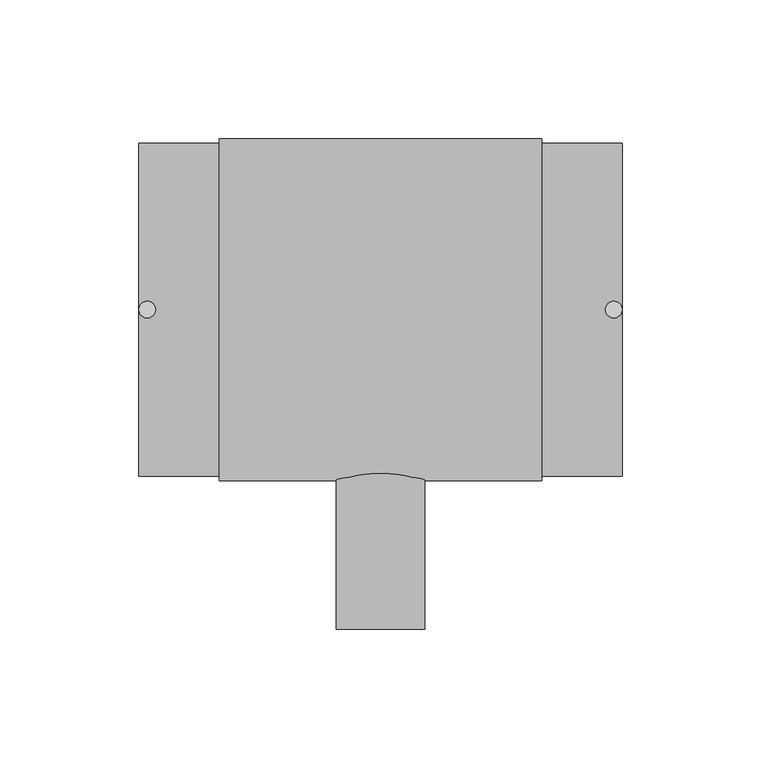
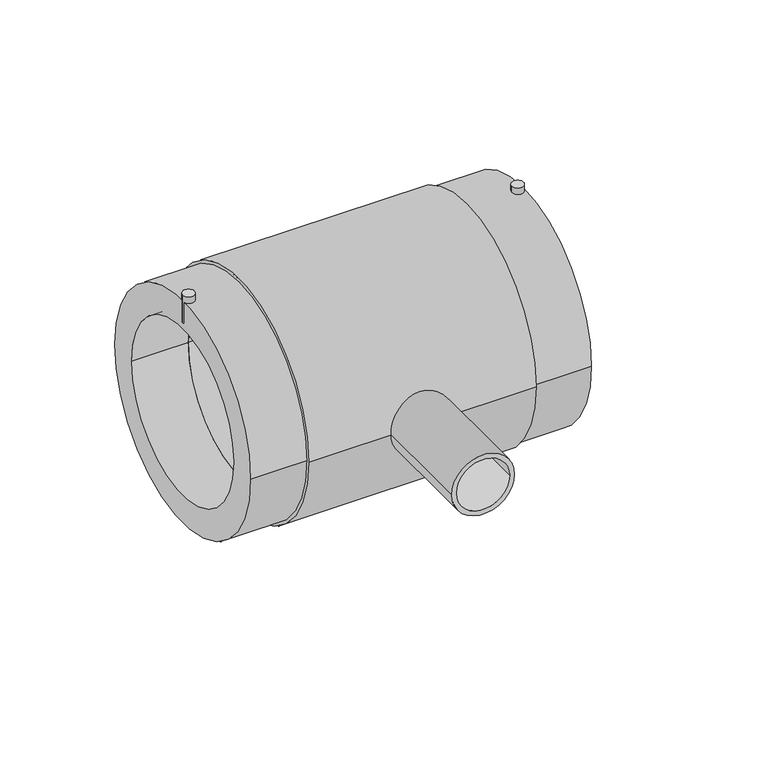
"""IFC4 building model written with IfcOpenShell, lengths in millimetres: pipe fitting geometry, EGB_VASEN_ PPR_Te electrosoldable WXRD300_Te reducida electrosoldable WXRD310 : Te electrosoldable."""

import ifcopenshell
import ifcopenshell.guid

model = None  # the IFC model being written
_history = None  # IfcOwnerHistory: only IFC2X3 demands one
_inside = {}  # id of a spatial element -> (the spatial element, [elements in it])
_under = {}  # id of a project, library or spatial element -> (it, [spatial elements below it])
_declared = {}  # id of a project -> (the project, [libraries it declares])
_typed = {}  # id of a type object -> (the type object, [elements of that type])
_made_of = {}  # id of a material, layer set ... -> (it, [elements and type objects made of it])


def new_model(schema):
    """Start an empty IFC model of exactly this schema.

    Asked for "IFC4X3", IfcOpenShell would pick the latest addendum, in which some entities
    have other attributes; the version numbers below select the first issue.
    IFC2X3 requires an IfcOwnerHistory on every rooted entity: one is made here for all.
    """
    global model, _history
    if schema == "IFC4X3":
        model = ifcopenshell.file(schema_version=(4, 3, 0, 0))
    else:
        model = ifcopenshell.file(schema=schema)
    _inside.clear()
    _under.clear()
    _declared.clear()
    _typed.clear()
    _made_of.clear()
    _history = None
    if model.schema == "IFC2X3":
        org = make("IfcOrganization", Name="unknown")
        user = make(
            "IfcPersonAndOrganization",
            ThePerson=make("IfcPerson", FamilyName="unknown"),
            TheOrganization=org,
        )
        app = make(
            "IfcApplication",
            ApplicationDeveloper=org,
            Version="unknown",
            ApplicationFullName="unknown",
            ApplicationIdentifier="unknown",
        )
        _history = make(
            "IfcOwnerHistory",
            OwningUser=user,
            OwningApplication=app,
            ChangeAction="ADDED",
            CreationDate=0,
        )
    return model


def make(cls, **values):
    """One entity of the class cls with the attributes given. An attribute that is None is left unset."""
    return model.create_entity(
        cls, **{name: value for name, value in values.items() if value is not None}
    )


def rooted(cls, **values):
    """An entity with a GlobalId (a new one), such as an element, a storey or a relation."""
    return make(cls, GlobalId=ifcopenshell.guid.new(), OwnerHistory=_history, **values)


def si_unit(unit_type, name, prefix=None):
    """IfcSIUnit, for example si_unit("LENGTHUNIT", "METRE", prefix="MILLI")."""
    return make("IfcSIUnit", UnitType=unit_type, Prefix=prefix, Name=name)


def assignment(units):
    """IfcUnitAssignment: the units of a project."""
    return None if units is None else make("IfcUnitAssignment", Units=units)


def point(xyz):
    """IfcCartesianPoint."""
    return None if xyz is None else make("IfcCartesianPoint", Coordinates=xyz)


def direction(xyz):
    """IfcDirection."""
    return None if xyz is None else make("IfcDirection", DirectionRatios=xyz)


def frame(location, z_axis=None, x_axis=None):
    """IfcAxis2Placement3D, a coordinate frame: its origin and axes. An axis left out is left unset."""
    return make(
        "IfcAxis2Placement3D",
        Location=point(location),
        Axis=direction(z_axis),
        RefDirection=direction(x_axis),
    )


def frame_2d(location, x_axis=None):
    """IfcAxis2Placement2D, a coordinate frame in the plane: its origin and x axis."""
    return make(
        "IfcAxis2Placement2D", Location=point(location), RefDirection=direction(x_axis)
    )


def origin():
    """The frame at (0, 0, 0) with its axes left unset."""
    return frame((0.0, 0.0, 0.0))


def origin_2d():
    """The frame at (0, 0) in the plane with its x axis left unset."""
    return frame_2d((0.0, 0.0))


def place(relative_to, where):
    """IfcLocalPlacement: puts the frame where relative to a parent placement (None: the world)."""
    return make(
        "IfcLocalPlacement", PlacementRelTo=relative_to, RelativePlacement=where
    )


def context(
    kind, dimensions, precision=None, world=None, true_north=None, identifier=None
):
    """IfcGeometricRepresentationContext, for example the 3D "Model" context."""
    return make(
        "IfcGeometricRepresentationContext",
        ContextIdentifier=identifier,
        ContextType=kind,
        CoordinateSpaceDimension=dimensions,
        Precision=precision,
        WorldCoordinateSystem=world,
        TrueNorth=true_north,
    )


def project(units=None, contexts=None):
    """IfcProject with its units and contexts."""
    return rooted(
        "IfcProject",
        Name="project",
        RepresentationContexts=contexts,
        UnitsInContext=assignment(units),
    )


def spatial(cls, under=None, at=None, **own):
    """A site, building, storey or space (cls), placed at a placement, below another one or the project."""
    s = rooted(cls, ObjectPlacement=at, **own)
    if under is not None:
        _under.setdefault(under.id(), (under, []))[1].append(s)
    return s


def circle_curve(where, radius):
    """IfcCircle in the frame where."""
    return make("IfcCircle", Position=where, Radius=radius)


def trimmed(basis, trim1, trim2, sense, master):
    """IfcTrimmedCurve: the piece of a basis curve between two trims."""
    return make(
        "IfcTrimmedCurve",
        BasisCurve=basis,
        Trim1=trim1,
        Trim2=trim2,
        SenseAgreement=sense,
        MasterRepresentation=master,
    )


def segment(curve, same_sense, transition):
    """IfcCompositeCurveSegment."""
    return make(
        "IfcCompositeCurveSegment",
        Transition=transition,
        SameSense=same_sense,
        ParentCurve=curve,
    )


def composite_curve(segments, self_intersect=None):
    """IfcCompositeCurve: segments joined end to end."""
    return make("IfcCompositeCurve", Segments=segments, SelfIntersect=self_intersect)


def outline(outer, holes=None, kind="AREA"):
    """IfcArbitraryClosedProfileDef: a profile drawn as a closed curve; with holes, ...WithVoids."""
    if holes is None:
        return make("IfcArbitraryClosedProfileDef", ProfileType=kind, OuterCurve=outer)
    return make(
        "IfcArbitraryProfileDefWithVoids",
        ProfileType=kind,
        OuterCurve=outer,
        InnerCurves=holes,
    )


def extrude(swept, where, along, depth):
    """IfcExtrudedAreaSolid: the profile swept, set in the frame where, extruded along a direction by depth."""
    return make(
        "IfcExtrudedAreaSolid",
        SweptArea=swept,
        Position=where,
        ExtrudedDirection=direction(along),
        Depth=depth,
    )


def shape(context_of_items, identifier, shape_type, items):
    """IfcShapeRepresentation: the items that make up one representation, for example the "Body"."""
    return make(
        "IfcShapeRepresentation",
        ContextOfItems=context_of_items,
        RepresentationIdentifier=identifier,
        RepresentationType=shape_type,
        Items=items,
    )


def source(mapping_origin, context_of_items, identifier, shape_type, items):
    """IfcRepresentationMap: a shape defined once, which mapped items show again and again."""
    return make(
        "IfcRepresentationMap",
        MappingOrigin=mapping_origin,
        MappedRepresentation=shape(context_of_items, identifier, shape_type, items),
    )


def transform(
    local_origin,
    x_axis=None,
    y_axis=None,
    z_axis=None,
    scale=None,
    scale2=None,
    scale3=None,
    uniform=True,
):
    """IfcCartesianTransformationOperator3D, or its non-uniform kind. x_axis, y_axis, z_axis: its Axis1, 2, 3."""
    if uniform:
        return make(
            "IfcCartesianTransformationOperator3D",
            Axis1=direction(x_axis),
            Axis2=direction(y_axis),
            LocalOrigin=point(local_origin),
            Scale=scale,
            Axis3=direction(z_axis),
        )
    return make(
        "IfcCartesianTransformationOperator3DnonUniform",
        Axis1=direction(x_axis),
        Axis2=direction(y_axis),
        LocalOrigin=point(local_origin),
        Scale=scale,
        Axis3=direction(z_axis),
        Scale2=scale2,
        Scale3=scale3,
    )


def mapped(mapping_source, mapping_target):
    """IfcMappedItem: shows the shape of a source again, moved by a transform."""
    return make(
        "IfcMappedItem", MappingSource=mapping_source, MappingTarget=mapping_target
    )


def made_of(thing, what):
    """Note that an element or type object is made of a material, layer set ...; save() writes the relation."""
    if what is not None:
        _made_of.setdefault(what.id(), (what, []))[1].append(thing)
    return thing


def element(
    cls,
    number,
    at=None,
    inside=None,
    cuts=None,
    type_object=None,
    material=None,
    context=None,
    identifier="Body",
    shape_type=None,
    held_by="IfcProductDefinitionShape",
    body=None,
    shapes=None,
    **own,
):
    """One element of the class cls, such as IfcWall. Its Tag is "e" and its number.

    at: its placement. inside: the storey or other place that contains it. cuts: it is an
    opening in that element (IfcRelVoidsElement). A single representation is given by context,
    identifier, shape_type and body (its items); several are given by shapes. held_by: the class
    of the entity that holds the representations. save() writes the other relations.
    """
    e = rooted(cls, Tag="e%d" % number, ObjectPlacement=at, **own)
    if body is not None:
        shapes = [shape(context, identifier, shape_type, body)]
    if shapes is not None:
        e.Representation = make(held_by, Representations=shapes)
    if inside is not None:
        _inside.setdefault(inside.id(), (inside, []))[1].append(e)
    if cuts is not None:
        rooted(
            "IfcRelVoidsElement", RelatingBuildingElement=cuts, RelatedOpeningElement=e
        )
    if type_object is not None:
        _typed.setdefault(type_object.id(), (type_object, []))[1].append(e)
    return made_of(e, material)


def aggregate(whole, parts):
    """IfcRelAggregates: a whole, such as a stair, and the parts it consists of."""
    return rooted("IfcRelAggregates", RelatingObject=whole, RelatedObjects=parts)


def save(model, path):
    """Write the relations noted so far, then the file.

    IfcRelAggregates (storeys below a building ...), IfcRelContainedInSpatialStructure (elements
    in a storey), IfcRelDefinesByType, IfcRelAssociatesMaterial and IfcRelDeclares: one each for
    every whole, place, type object, material and project.
    """
    for whole, parts in _under.values():
        aggregate(whole, parts)
    for where, things in _inside.values():
        rooted(
            "IfcRelContainedInSpatialStructure",
            RelatedElements=things,
            RelatingStructure=where,
        )
    for kind, things in _typed.values():
        rooted("IfcRelDefinesByType", RelatedObjects=things, RelatingType=kind)
    for what, things in _made_of.values():
        rooted("IfcRelAssociatesMaterial", RelatedObjects=things, RelatingMaterial=what)
    for by, libraries in _declared.values():
        rooted("IfcRelDeclares", RelatingContext=by, RelatedDefinitions=libraries)
    model.write(path)


def pipe_fitting_7bd3912f(model_context):
    return source(origin(), model_context, "Body", "SweptSolid", [
        extrude(outline(composite_curve([segment(trimmed(circle_curve(frame_2d((-84.0, 0.0)), 3.0), [point((-87.0, 0.0))], [point((-81.0, 0.0))], False, "CARTESIAN"), True, "CONTINUOUS"), segment(trimmed(circle_curve(frame_2d((-84.0, 0.0)), 3.0), [point((-81.0, 0.0))], [point((-87.0, 0.0))], False, "CARTESIAN"), True, "CONTINUOUS")], self_intersect=False)), frame((0.0, 0.0, 48.0), z_axis=(0.0, 0.0, 1.0), x_axis=(1.0, 0.0, 0.0)), (0.0, 0.0, 1.0), 15.0),
        extrude(outline(composite_curve([segment(trimmed(circle_curve(frame_2d((84.0, 0.0)), 3.0), [point((81.0, 0.0))], [point((87.0, 0.0))], False, "CARTESIAN"), True, "CONTINUOUS"), segment(trimmed(circle_curve(frame_2d((84.0, 0.0)), 3.0), [point((87.0, 0.0))], [point((81.0, 0.0))], False, "CARTESIAN"), True, "CONTINUOUS")], self_intersect=False)), frame((0.0, 0.0, 48.0), z_axis=(0.0, 0.0, 1.0), x_axis=(1.0, 0.0, 0.0)), (0.0, 0.0, 1.0), 15.0),
        extrude(outline(composite_curve([segment(trimmed(circle_curve(origin_2d(), 18.5), [point((0.0, 18.5))], [point((0.0, -18.5))], False, "CARTESIAN"), True, "CONTINUOUS"), segment(trimmed(circle_curve(origin_2d(), 18.5), [point((0.0, -18.5))], [point((0.0, 18.5))], False, "CARTESIAN"), True, "CONTINUOUS")], self_intersect=False)), frame((0.0, -46.0, 0.0), z_axis=(0.0, 1.0, 0.0), x_axis=(0.0, 0.0, 1.0)), (0.0, 0.0, 1.0), 46.0),
        extrude(outline(composite_curve([segment(trimmed(circle_curve(origin_2d(), 16.0), [point((0.0, -16.0))], [point((0.0, 16.0))], False, "CARTESIAN"), True, "CONTINUOUS"), segment(trimmed(circle_curve(origin_2d(), 16.0), [point((0.0, 16.0))], [point((0.0, -16.0))], False, "CARTESIAN"), True, "CONTINUOUS")], self_intersect=False), holes=[composite_curve([segment(trimmed(circle_curve(origin_2d(), 13.5), [point((0.0, -13.5))], [point((0.0, 13.5))], True, "CARTESIAN"), True, "CONTINUOUS"), segment(trimmed(circle_curve(origin_2d(), 13.5), [point((0.0, 13.5))], [point((0.0, -13.5))], True, "CARTESIAN"), True, "CONTINUOUS")], self_intersect=False)]), frame((0.0, -115.0, 0.0), z_axis=(0.0, 1.0, 0.0), x_axis=(0.0, 0.0, 1.0)), (0.0, 0.0, 1.0), 69.0),
        extrude(outline(composite_curve([segment(trimmed(circle_curve(origin_2d(), 61.5), [point((-61.5, 0.0))], [point((61.5, 0.0))], False, "CARTESIAN"), True, "CONTINUOUS"), segment(trimmed(circle_curve(origin_2d(), 61.5), [point((61.5, 0.0))], [point((-61.5, 0.0))], False, "CARTESIAN"), True, "CONTINUOUS")], self_intersect=False), holes=[composite_curve([segment(trimmed(circle_curve(origin_2d(), 45.0), [point((-45.0, 0.0))], [point((45.0, 0.0))], True, "CARTESIAN"), True, "CONTINUOUS"), segment(trimmed(circle_curve(origin_2d(), 45.0), [point((45.0, 0.0))], [point((-45.0, 0.0))], True, "CARTESIAN"), True, "CONTINUOUS")], self_intersect=False)]), frame((-58.0, 0.0, 0.0), z_axis=(1.0, 0.0, 0.0), x_axis=(0.0, 1.0, 0.0)), (0.0, 0.0, 1.0), 116.0),
        extrude(outline(composite_curve([segment(trimmed(circle_curve(origin_2d(), 60.0), [point((-60.0, 0.0))], [point((60.0, 0.0))], False, "CARTESIAN"), True, "CONTINUOUS"), segment(trimmed(circle_curve(origin_2d(), 60.0), [point((60.0, 0.0))], [point((-60.0, 0.0))], False, "CARTESIAN"), True, "CONTINUOUS")], self_intersect=False), holes=[composite_curve([segment(trimmed(circle_curve(origin_2d(), 45.0), [point((-45.0, 0.0))], [point((45.0, 0.0))], True, "CARTESIAN"), True, "CONTINUOUS"), segment(trimmed(circle_curve(origin_2d(), 45.0), [point((45.0, 0.0))], [point((-45.0, 0.0))], True, "CARTESIAN"), True, "CONTINUOUS")], self_intersect=False)]), frame((-87.0, 0.0, 0.0), z_axis=(1.0, 0.0, 0.0), x_axis=(0.0, 1.0, 0.0)), (0.0, 0.0, 1.0), 174.0),
    ])


if __name__ == "__main__":
    model = new_model("IFC4")
    model_context = context("Model", 3, world=origin())
    ifc_project = project(units=[si_unit("LENGTHUNIT", "METRE", prefix="MILLI")], contexts=[model_context])
    site = spatial("IfcSite", under=ifc_project)
    building = spatial("IfcBuilding", under=site)
    placement = place(None, origin())
    pipe_fitting_shape = pipe_fitting_7bd3912f(model_context)
    element("IfcPipeFitting", 1, ObjectType="EGB_VASEN_ PPR_Te electrosoldable WXRD300_Te reducida electrosoldable WXRD310 : Te electrosoldable", at=placement, inside=building, context=model_context, shape_type="MappedRepresentation", body=[
        mapped(pipe_fitting_shape, transform((0.0, 0.0, 0.0), x_axis=(1.0, 0.0, 0.0), y_axis=(0.0, 1.0, 0.0), z_axis=(0.0, 0.0, 1.0))),
    ])
    save(model, "model.ifc")
